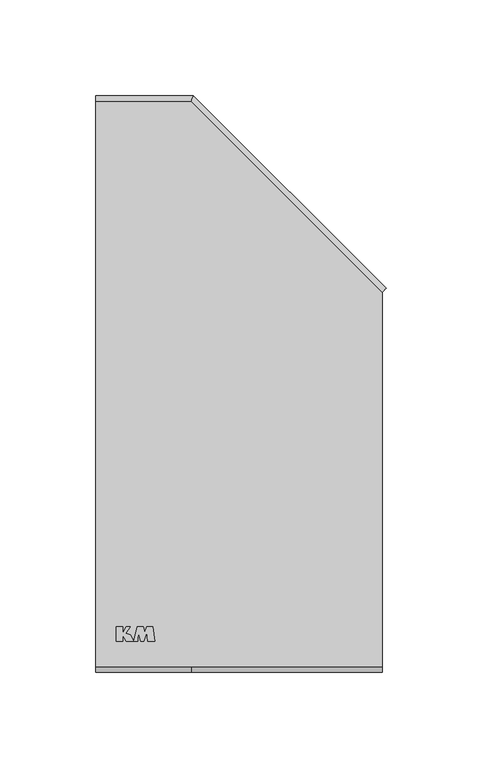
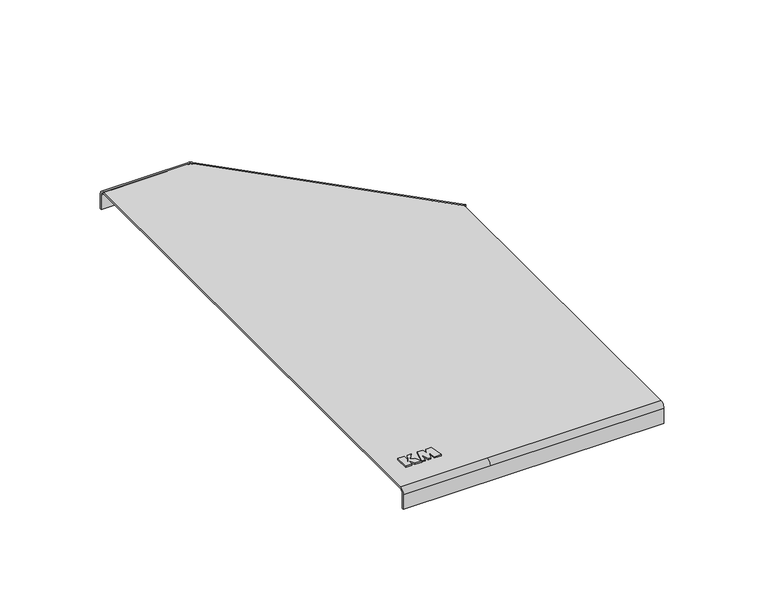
"""IFC4 building model written with IfcOpenShell, lengths in millimetres: cable carrier fitting geometry, КМ Профиль Крышка переходника по ширине KPD : Крышка переходника по ширине KPD."""

from ifc_helpers import new_model, si_unit, frame, origin, place, context, project, spatial, polyline, circle_curve, ellipse_curve, outline, extrude, source, transform, mapped, element, save
from ifc_brep_helpers import plane_surface, cylinder_surface, revolved_surface, advanced_brep


def cable_carrier_fitting_bcb73243(model_context):
    return source(origin(), model_context, "Body", "SolidModel", [
        extrude(outline(polyline([(-39.2388781, -126.986157), (-35.7316192, -126.986157), (-35.7316192, -130.564509), (-33.8289757, -126.986157), (-31.703011, -126.986157), (-34.1694955, -130.5086619), (-31.9277444, -131.194034), (-30.0604353, -134.737421), (-33.9588467, -134.737421), (-35.6630512, -131.5720802), (-35.6630512, -134.737421), (-39.2388781, -134.737421), (-39.2388781, -126.986157)])), frame((0.0, 0.0, 3.0), z_axis=(0.0, 0.0, 1.0), x_axis=(1.0, 0.0, 0.0)), (0.0, 0.0, 1.0), 0.8),
        extrude(outline(polyline([(-27.9962759, -134.737421), (-29.8943395, -134.737421), (-28.0740589, -126.9647569), (-25.0433304, -126.9647569), (-24.2768297, -130.0390232), (-23.2555223, -126.9623682), (-20.0615674, -126.9623682), (-18.8700699, -134.7429915), (-22.7725105, -134.7429915), (-23.2500032, -130.0541919), (-24.7300717, -134.7434681), (-26.2045824, -134.7434681), (-27.6126012, -130.0696135), (-27.9962759, -134.737421)])), frame((0.0, 0.0, 3.0), z_axis=(0.0, 0.0, 1.0), x_axis=(1.0, 0.0, 0.0)), (0.0, 0.0, 1.0), 0.8),
        advanced_brep(
        [(101.4142136, 49.4142136, 0.0), (101.4142136, 49.4142136, -9.0), (102.1213203, 50.1213203, -9.0), (102.1213203, 50.1213203, 0.0), (100.0, 48.0, 3.0), (100.0, 48.0, 2.0), (0.8284271, 150.0, 0.0), (0.8284271, 150.0, -9.0), (-50.0, 150.0, -9.0), (-50.0, 151.0, -9.0), (1.2426407, 151.0, -9.0), (1.2426407, 151.0, 0.0), (0.0, 148.0, 3.0), (0.0, 148.0, 2.0), (-50.0, 150.0, 0.0), (-50.0, 148.0, 2.0), (-50.0, -148.0, 2.0), (-50.0, -150.0, 0.0), (-50.0, -150.0, -9.0), (-50.0, -151.0, -9.0), (-50.0, -151.0, 0.0), (-50.0, -148.0, 3.0), (-50.0, 148.0, 3.0), (-50.0, 151.0, 0.0), (0.0, -148.0, 3.0), (100.0, -148.0, 3.0), (100.0, -148.0, 2.0), (0.0, -148.0, 2.0), (100.0, -151.0, 0.0), (100.0, -151.0, -9.0), (100.0, -150.0, -9.0), (100.0, -150.0, 0.0), (0.0, -150.0, 0.0), (0.0, -151.0, 0.0)],
        [
            (0, 1),
            (1, 2),
            (2, 3),
            (3, 4, circle_curve(frame((100.0, 48.0, 0.0), z_axis=(0.707106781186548, -0.707106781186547, 0.0), x_axis=(-0.707106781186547, -0.707106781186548, 0.0)), 3.0)),
            (4, 5),
            (5, 0, circle_curve(frame((100.0, 48.0, 0.0), z_axis=(-0.707106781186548, 0.707106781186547, 0.0), x_axis=(-0.707106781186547, -0.707106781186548, 0.0)), 2.0)),
            (0, 6),
            (6, 7),
            (7, 1),
            (7, 8),
            (8, 9),
            (9, 10),
            (10, 2),
            (10, 11),
            (11, 3),
            (11, 12, ellipse_curve(frame((0.0, 148.0, 0.0), z_axis=(0.9238795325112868, -0.3826834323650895, 0.0), x_axis=(-0.3826834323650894, -0.923879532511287, 0.0)), 3.2471766, 3.0)),
            (12, 4),
            (5, 13),
            (13, 6, ellipse_curve(frame((0.0, 148.0, 0.0), z_axis=(-0.9238795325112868, 0.3826834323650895, 0.0), x_axis=(0.3826834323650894, 0.923879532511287, 0.0)), 2.1647844, 2.0)),
            (8, 14),
            (14, 15, circle_curve(frame((-50.0, 148.0, 0.0), z_axis=(1.0, 0.0, 0.0), x_axis=(0.0, -1.0, 0.0)), 2.0)),
            (15, 16),
            (16, 17, circle_curve(frame((-50.0, -148.0, 0.0), z_axis=(1.0, 0.0, 0.0), x_axis=(0.0, 1.0, 0.0)), 2.0)),
            (17, 18),
            (18, 19),
            (19, 20),
            (20, 21, circle_curve(frame((-50.0, -148.0, 0.0), z_axis=(-1.0, 0.0, 0.0), x_axis=(0.0, 1.0, 0.0)), 3.0)),
            (21, 22),
            (22, 23, circle_curve(frame((-50.0, 148.0, 0.0), z_axis=(-1.0, 0.0, 0.0), x_axis=(0.0, -1.0, 0.0)), 3.0)),
            (23, 9),
            (6, 14),
            (23, 11),
            (22, 12),
            (13, 15),
            (21, 24),
            (24, 25),
            (25, 4),
            (5, 26),
            (26, 27),
            (27, 16),
            (25, 28, circle_curve(frame((100.0, -148.0, 0.0), z_axis=(1.0, 0.0, 0.0), x_axis=(0.0, 1.0, 0.0)), 3.0)),
            (28, 29),
            (29, 30),
            (30, 31),
            (31, 26, circle_curve(frame((100.0, -148.0, 0.0), z_axis=(-1.0, 0.0, 0.0), x_axis=(0.0, 1.0, 0.0)), 2.0)),
            (17, 32),
            (32, 31),
            (30, 18),
            (29, 19),
            (28, 33),
            (33, 20),
            (33, 24, circle_curve(frame((0.0, -148.0, 0.0), z_axis=(-1.0, 0.0, 0.0), x_axis=(0.0, 1.0, 0.0)), 3.0)),
            (27, 32, circle_curve(frame((0.0, -148.0, 0.0), z_axis=(1.0, 0.0, 0.0), x_axis=(0.0, 1.0, 0.0)), 2.0)),
        ],
        [
            plane_surface(frame((100.0, 48.0, 3.0), z_axis=(0.707106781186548, -0.707106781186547, 0.0), x_axis=(0.0, 0.0, 1.0))),
            plane_surface(frame((101.4142136, 49.4142136, 0.0), z_axis=(-0.7071067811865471, -0.707106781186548, 0.0), x_axis=(-0.707106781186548, 0.7071067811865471, 0.0))),
            plane_surface(frame((101.4142136, 49.4142136, -9.0), z_axis=(0.0, 0.0, -1.0000000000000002), x_axis=(-0.7071067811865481, 0.707106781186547, 0.0))),
            plane_surface(frame((102.1213203, 50.1213203, -9.0), z_axis=(0.7071067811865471, 0.7071067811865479, 0.0), x_axis=(-0.7071067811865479, 0.7071067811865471, 0.0))),
            cylinder_surface(frame((100.0, 48.0, 0.0), z_axis=(0.707106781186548, -0.707106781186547, 0.0), x_axis=(-0.707106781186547, -0.707106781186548, 0.0)), 3.0),
            revolved_surface(polyline([(-2.000000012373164, 147.17157288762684, 0.0), (98.58578643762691, 46.5857864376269, 0.0)]), (100.0, 48.0, 0.0), (-0.707106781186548, 0.707106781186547, 0.0)),
            plane_surface(frame((-50.0, 148.0, 3.0), z_axis=(-1.0, 0.0, 0.0), x_axis=(0.0, 0.0, 1.0))),
            plane_surface(frame((0.8284271, 150.0, 0.0), z_axis=(0.0, -1.0, 0.0), x_axis=(-1.0, 0.0, 0.0))),
            plane_surface(frame((1.2426407, 151.0, -9.0), z_axis=(0.0, 1.0, 0.0), x_axis=(-1.0, 0.0, 0.0))),
            cylinder_surface(frame((0.0, 148.0, 0.0), z_axis=(1.0, 0.0, 0.0), x_axis=(0.0, -1.0, 0.0)), 3.0),
            revolved_surface(polyline([(-50.0, 146.0, 0.0), (0.8284271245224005, 146.0, 0.0)]), (0.0, 148.0, 0.0), (-1.0, 0.0, 0.0)),
            plane_surface(frame((-50.0, 148.0, 3.0), z_axis=(0.0, 0.0, 1.0), x_axis=(-1.0, 0.0, 0.0))),
            plane_surface(frame((-50.0, 148.0, 2.0), z_axis=(0.0, 0.0, -1.0), x_axis=(1.0, 0.0, 0.0))),
            plane_surface(frame((100.0, -148.0, 3.0), z_axis=(1.0, 0.0, 0.0), x_axis=(0.0, 0.0, -1.0))),
            plane_surface(frame((-50.0, -150.0, 0.0), z_axis=(0.0, 1.0, 0.0), x_axis=(1.0, 0.0, 0.0))),
            plane_surface(frame((-50.0, -150.0, -9.0), z_axis=(0.0, 0.0, -1.0), x_axis=(1.0, 0.0, 0.0))),
            plane_surface(frame((-50.0, -151.0, -9.0), z_axis=(0.0, -1.0, 0.0), x_axis=(1.0, 0.0, 0.0))),
            cylinder_surface(frame((-50.0, -148.0, 0.0), z_axis=(-1.0, 0.0, 0.0), x_axis=(0.0, 1.0, 0.0)), 3.0),
            revolved_surface(polyline([(0.0, -146.0, 0.0), (-50.0, -146.0, 0.0)]), (-50.0, -148.0, 0.0), (1.0, 0.0, 0.0)),
            cylinder_surface(frame((0.0, -148.0, 0.0), z_axis=(-1.0, 0.0, 0.0), x_axis=(0.0, 1.0, 0.0)), 3.0),
            revolved_surface(polyline([(100.0, -146.0, 0.0), (0.0, -146.0, 0.0)]), (0.0, -148.0, 0.0), (1.0, 0.0, 0.0)),
        ],
        [
            (0, [[1, 2, 3, 4, 5, 6]]),
            (1, [[-1, 7, 8, 9]]),
            (2, [[-2, -9, 10, 11, 12, 13]]),
            (3, [[-3, -13, 14, 15]]),
            (4, [[-4, -15, 16, 17]]),
            (5, [[-6, 18, 19, -7]]),
            (6, [[-11, 20, 21, 22, 23, 24, 25, 26, 27, 28, 29, 30]]),
            (7, [[-8, 31, -20, -10]]),
            (8, [[-12, -30, 32, -14]]),
            (9, [[-16, -32, -29, 33]]),
            (10, [[-19, 34, -21, -31]]),
            (11, [[-28, 35, 36, 37, -17, -33]]),
            (12, [[38, 39, 40, -22, -34, -18]]),
            (13, [[-37, 41, 42, 43, 44, 45, -38, -5]]),
            (14, [[-24, 46, 47, -44, 48]]),
            (15, [[-25, -48, -43, 49]]),
            (16, [[-26, -49, -42, 50, 51]]),
            (17, [[-27, -51, 52, -35]]),
            (18, [[-23, -40, 53, -46]]),
            (19, [[-50, -41, -36, -52]]),
            (20, [[-47, -53, -39, -45]]),
        ],
    ),
    ])


if __name__ == "__main__":
    model = new_model("IFC4")
    model_context = context("Model", 3, world=origin())
    ifc_project = project(units=[si_unit("LENGTHUNIT", "METRE", prefix="MILLI")], contexts=[model_context])
    site = spatial("IfcSite", under=ifc_project)
    building = spatial("IfcBuilding", under=site)
    placement = place(None, origin())
    cable_carrier_fitting_shape = cable_carrier_fitting_bcb73243(model_context)
    element("IfcCableCarrierFitting", 1, ObjectType="КМ Профиль Крышка переходника по ширине KPD : Крышка переходника по ширине KPD", at=placement, inside=building, context=model_context, shape_type="MappedRepresentation", body=[
        mapped(cable_carrier_fitting_shape, transform((0.0, 0.0, 0.0), x_axis=(1.0, 0.0, 0.0), y_axis=(0.0, 1.0, 0.0), z_axis=(0.0, 0.0, 1.0))),
    ])
    save(model, "model.ifc")
